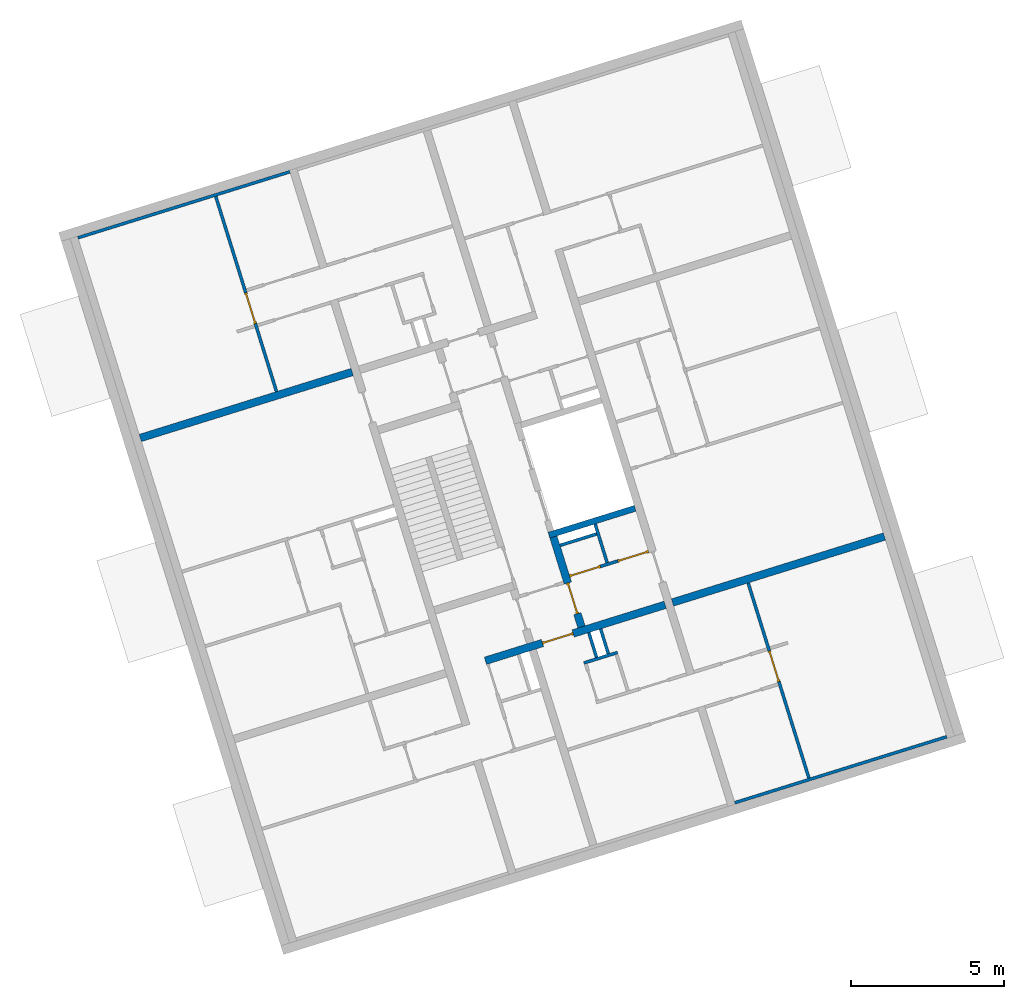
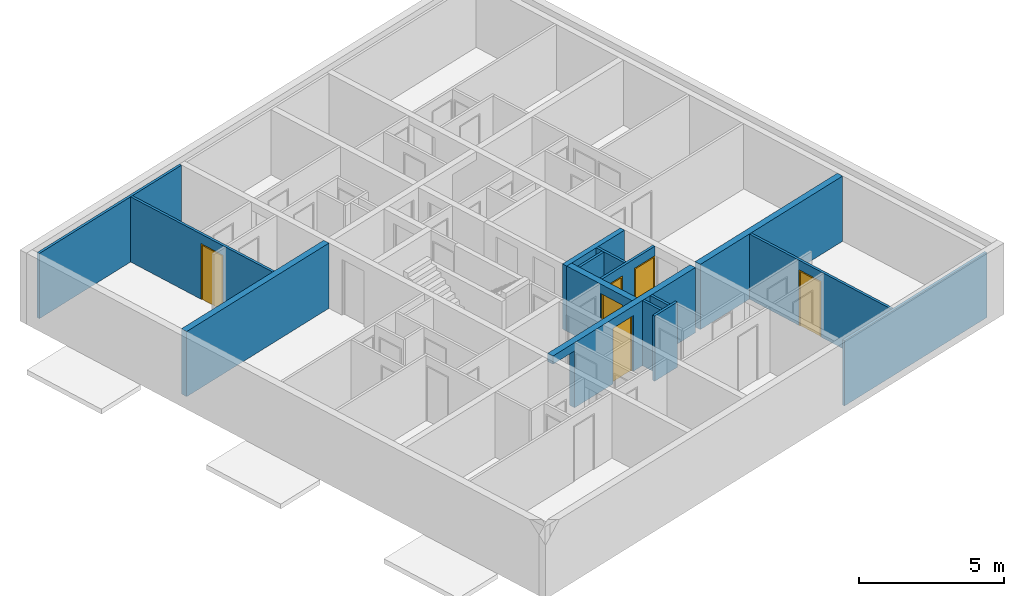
# One storey, part 4 of 9: 15 walls, 6 doors, 7 openings.
"""IFC4 building model written with IfcOpenShell, lengths in metres."""

import ifcopenshell
import ifcopenshell.guid

model = None  # the IFC model being written
_history = None  # IfcOwnerHistory: only IFC2X3 demands one
_inside = {}  # id of a spatial element -> (the spatial element, [elements in it])
_under = {}  # id of a project, library or spatial element -> (it, [spatial elements below it])
_declared = {}  # id of a project -> (the project, [libraries it declares])
_typed = {}  # id of a type object -> (the type object, [elements of that type])
_made_of = {}  # id of a material, layer set ... -> (it, [elements and type objects made of it])


def new_model(schema):
    """Start an empty IFC model of exactly this schema.

    Asked for "IFC4X3", IfcOpenShell would pick the latest addendum, in which some entities
    have other attributes; the version numbers below select the first issue.
    IFC2X3 requires an IfcOwnerHistory on every rooted entity: one is made here for all.
    """
    global model, _history
    if schema == "IFC4X3":
        model = ifcopenshell.file(schema_version=(4, 3, 0, 0))
    else:
        model = ifcopenshell.file(schema=schema)
    _inside.clear()
    _under.clear()
    _declared.clear()
    _typed.clear()
    _made_of.clear()
    _history = None
    if model.schema == "IFC2X3":
        org = make("IfcOrganization", Name="unknown")
        user = make(
            "IfcPersonAndOrganization",
            ThePerson=make("IfcPerson", FamilyName="unknown"),
            TheOrganization=org,
        )
        app = make(
            "IfcApplication",
            ApplicationDeveloper=org,
            Version="unknown",
            ApplicationFullName="unknown",
            ApplicationIdentifier="unknown",
        )
        _history = make(
            "IfcOwnerHistory",
            OwningUser=user,
            OwningApplication=app,
            ChangeAction="ADDED",
            CreationDate=0,
        )
    return model


def make(cls, **values):
    """One entity of the class cls with the attributes given. An attribute that is None is left unset."""
    return model.create_entity(
        cls, **{name: value for name, value in values.items() if value is not None}
    )


def entity(cls, *values):
    """Any entity or typed value of the class cls, its attributes in the order of the schema. None: left unset."""
    e = model.create_entity(cls)
    for i, value in enumerate(values):
        if value is not None:
            e[i] = value
    return e


def rooted(cls, **values):
    """An entity with a GlobalId (a new one), such as an element, a storey or a relation."""
    return make(cls, GlobalId=ifcopenshell.guid.new(), OwnerHistory=_history, **values)


def si_unit(unit_type, name, prefix=None):
    """IfcSIUnit, for example si_unit("LENGTHUNIT", "METRE", prefix="MILLI")."""
    return make("IfcSIUnit", UnitType=unit_type, Prefix=prefix, Name=name)


def converted_unit(unit_type, name, factor, base, dimensions=None, offset=None):
    """IfcConversionBasedUnit, such as the inch: factor (a typed value) times the base unit."""
    return make(
        "IfcConversionBasedUnit"
        if offset is None
        else "IfcConversionBasedUnitWithOffset",
        ConversionOffset=offset,
        Dimensions=None
        if dimensions is None
        else entity("IfcDimensionalExponents", *dimensions),
        UnitType=unit_type,
        Name=name,
        ConversionFactor=make(
            "IfcMeasureWithUnit", ValueComponent=factor, UnitComponent=base
        ),
    )


def assignment(units):
    """IfcUnitAssignment: the units of a project."""
    return None if units is None else make("IfcUnitAssignment", Units=units)


def point(xyz):
    """IfcCartesianPoint."""
    return None if xyz is None else make("IfcCartesianPoint", Coordinates=xyz)


def direction(xyz):
    """IfcDirection."""
    return None if xyz is None else make("IfcDirection", DirectionRatios=xyz)


def frame(location, z_axis=None, x_axis=None):
    """IfcAxis2Placement3D, a coordinate frame: its origin and axes. An axis left out is left unset."""
    return make(
        "IfcAxis2Placement3D",
        Location=point(location),
        Axis=direction(z_axis),
        RefDirection=direction(x_axis),
    )


def origin():
    """The frame at (0, 0, 0) with its axes left unset."""
    return frame((0.0, 0.0, 0.0))


def place(relative_to, where):
    """IfcLocalPlacement: puts the frame where relative to a parent placement (None: the world)."""
    return make(
        "IfcLocalPlacement", PlacementRelTo=relative_to, RelativePlacement=where
    )


def context(
    kind, dimensions, precision=None, world=None, true_north=None, identifier=None
):
    """IfcGeometricRepresentationContext, for example the 3D "Model" context."""
    return make(
        "IfcGeometricRepresentationContext",
        ContextIdentifier=identifier,
        ContextType=kind,
        CoordinateSpaceDimension=dimensions,
        Precision=precision,
        WorldCoordinateSystem=world,
        TrueNorth=true_north,
    )


def subcontext(parent, identifier, kind, view, scale=None):
    """IfcGeometricRepresentationSubContext, for example "Body" below "Model"."""
    return make(
        "IfcGeometricRepresentationSubContext",
        ContextIdentifier=identifier,
        ContextType=kind,
        ParentContext=parent,
        TargetScale=scale,
        TargetView=view,
    )


def project(units=None, contexts=None):
    """IfcProject with its units and contexts."""
    return rooted(
        "IfcProject",
        Name="project",
        RepresentationContexts=contexts,
        UnitsInContext=assignment(units),
    )


def spatial(cls, under=None, at=None, **own):
    """A site, building, storey or space (cls), placed at a placement, below another one or the project."""
    s = rooted(cls, ObjectPlacement=at, **own)
    if under is not None:
        _under.setdefault(under.id(), (under, []))[1].append(s)
    return s


def point_list(points):
    """IfcCartesianPointList2D or 3D."""
    cls = (
        "IfcCartesianPointList2D" if len(points[0]) == 2 else "IfcCartesianPointList3D"
    )
    return make(cls, CoordList=points)


def indexed_curve(points, segments=None, self_intersect=None):
    """IfcIndexedPolyCurve: lines and arcs through numbered points (the first is 1)."""
    return make(
        "IfcIndexedPolyCurve",
        Points=point_list(points),
        Segments=segments,
        SelfIntersect=self_intersect,
    )


def outline(outer, holes=None, kind="AREA"):
    """IfcArbitraryClosedProfileDef: a profile drawn as a closed curve; with holes, ...WithVoids."""
    if holes is None:
        return make("IfcArbitraryClosedProfileDef", ProfileType=kind, OuterCurve=outer)
    return make(
        "IfcArbitraryProfileDefWithVoids",
        ProfileType=kind,
        OuterCurve=outer,
        InnerCurves=holes,
    )


def extrude(swept, where, along, depth):
    """IfcExtrudedAreaSolid: the profile swept, set in the frame where, extruded along a direction by depth."""
    return make(
        "IfcExtrudedAreaSolid",
        SweptArea=swept,
        Position=where,
        ExtrudedDirection=direction(along),
        Depth=depth,
    )


def polygons(points, faces, closed=None, point_numbers=None):
    """IfcPolygonalFaceSet: a face is its outer loop, then its inner loops; points numbered from 1."""
    made = []
    for loops in faces:
        if len(loops) == 1:
            made.append(make("IfcIndexedPolygonalFace", CoordIndex=loops[0]))
        else:
            made.append(
                make(
                    "IfcIndexedPolygonalFaceWithVoids",
                    CoordIndex=loops[0],
                    InnerCoordIndices=loops[1:],
                )
            )
    return make(
        "IfcPolygonalFaceSet",
        Coordinates=point_list(points),
        Closed=closed,
        Faces=made,
        PnIndex=point_numbers,
    )


def shape(context_of_items, identifier, shape_type, items):
    """IfcShapeRepresentation: the items that make up one representation, for example the "Body"."""
    return make(
        "IfcShapeRepresentation",
        ContextOfItems=context_of_items,
        RepresentationIdentifier=identifier,
        RepresentationType=shape_type,
        Items=items,
    )


def source(mapping_origin, context_of_items, identifier, shape_type, items):
    """IfcRepresentationMap: a shape defined once, which mapped items show again and again."""
    return make(
        "IfcRepresentationMap",
        MappingOrigin=mapping_origin,
        MappedRepresentation=shape(context_of_items, identifier, shape_type, items),
    )


def transform(
    local_origin,
    x_axis=None,
    y_axis=None,
    z_axis=None,
    scale=None,
    scale2=None,
    scale3=None,
    uniform=True,
):
    """IfcCartesianTransformationOperator3D, or its non-uniform kind. x_axis, y_axis, z_axis: its Axis1, 2, 3."""
    if uniform:
        return make(
            "IfcCartesianTransformationOperator3D",
            Axis1=direction(x_axis),
            Axis2=direction(y_axis),
            LocalOrigin=point(local_origin),
            Scale=scale,
            Axis3=direction(z_axis),
        )
    return make(
        "IfcCartesianTransformationOperator3DnonUniform",
        Axis1=direction(x_axis),
        Axis2=direction(y_axis),
        LocalOrigin=point(local_origin),
        Scale=scale,
        Axis3=direction(z_axis),
        Scale2=scale2,
        Scale3=scale3,
    )


def mapped(mapping_source, mapping_target):
    """IfcMappedItem: shows the shape of a source again, moved by a transform."""
    return make(
        "IfcMappedItem", MappingSource=mapping_source, MappingTarget=mapping_target
    )


def material(Name=None, Category=None):
    """IfcMaterial."""
    return make("IfcMaterial", Name=Name, Category=Category)


def constituent(of_material, Name=None, Category=None, fraction=None):
    """IfcMaterialConstituent: one of the materials an element consists of."""
    return make(
        "IfcMaterialConstituent",
        Name=Name,
        Material=of_material,
        Fraction=fraction,
        Category=Category,
    )


def constituent_set(constituents=None, Name=None):
    """IfcMaterialConstituentSet."""
    return make(
        "IfcMaterialConstituentSet", Name=Name, MaterialConstituents=constituents
    )


def made_of(thing, what):
    """Note that an element or type object is made of a material, layer set ...; save() writes the relation."""
    if what is not None:
        _made_of.setdefault(what.id(), (what, []))[1].append(thing)
    return thing


def type_object(cls, material=None, **own):
    """A type object (cls), such as IfcWallType, which elements share."""
    return made_of(rooted(cls, **own), material)


def type_shapes(of_type, sources):
    """Give a type object the sources (RepresentationMaps) that its elements show as mapped items."""
    of_type.RepresentationMaps = sources


def element(
    cls,
    number,
    at=None,
    inside=None,
    cuts=None,
    type_object=None,
    material=None,
    context=None,
    identifier="Body",
    shape_type=None,
    held_by="IfcProductDefinitionShape",
    body=None,
    shapes=None,
    **own,
):
    """One element of the class cls, such as IfcWall. Its Tag is "e" and its number.

    at: its placement. inside: the storey or other place that contains it. cuts: it is an
    opening in that element (IfcRelVoidsElement). A single representation is given by context,
    identifier, shape_type and body (its items); several are given by shapes. held_by: the class
    of the entity that holds the representations. save() writes the other relations.
    """
    e = rooted(cls, Tag="e%d" % number, ObjectPlacement=at, **own)
    if body is not None:
        shapes = [shape(context, identifier, shape_type, body)]
    if shapes is not None:
        e.Representation = make(held_by, Representations=shapes)
    if inside is not None:
        _inside.setdefault(inside.id(), (inside, []))[1].append(e)
    if cuts is not None:
        rooted(
            "IfcRelVoidsElement", RelatingBuildingElement=cuts, RelatedOpeningElement=e
        )
    if type_object is not None:
        _typed.setdefault(type_object.id(), (type_object, []))[1].append(e)
    return made_of(e, material)


def fill(opening, filler):
    """IfcRelFillsElement: the door or window that sits in an opening."""
    return rooted(
        "IfcRelFillsElement",
        RelatingOpeningElement=opening,
        RelatedBuildingElement=filler,
    )


def aggregate(whole, parts):
    """IfcRelAggregates: a whole, such as a stair, and the parts it consists of."""
    return rooted("IfcRelAggregates", RelatingObject=whole, RelatedObjects=parts)


def save(model, path):
    """Write the relations noted so far, then the file.

    IfcRelAggregates (storeys below a building ...), IfcRelContainedInSpatialStructure (elements
    in a storey), IfcRelDefinesByType, IfcRelAssociatesMaterial and IfcRelDeclares: one each for
    every whole, place, type object, material and project.
    """
    for whole, parts in _under.values():
        aggregate(whole, parts)
    for where, things in _inside.values():
        rooted(
            "IfcRelContainedInSpatialStructure",
            RelatedElements=things,
            RelatingStructure=where,
        )
    for kind, things in _typed.values():
        rooted("IfcRelDefinesByType", RelatedObjects=things, RelatingType=kind)
    for what, things in _made_of.values():
        rooted("IfcRelAssociatesMaterial", RelatedObjects=things, RelatingMaterial=what)
    for by, libraries in _declared.values():
        rooted("IfcRelDeclares", RelatingContext=by, RelatedDefinitions=libraries)
    model.write(path)


model = new_model("IFC4")

# Units and contexts
model_context = context("Model", 3, precision=1e-05, world=origin(), true_north=direction((6.12323399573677e-17, 1.0)))
body_context = subcontext(model_context, "Body", "Model", "MODEL_VIEW")
ifc_project = project(units=[si_unit("LENGTHUNIT", "METRE"), si_unit("AREAUNIT", "SQUARE_METRE"), converted_unit("PLANEANGLEUNIT", "DEGREE", entity("IfcPlaneAngleMeasure", 0.0174532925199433), si_unit("PLANEANGLEUNIT", "RADIAN"), dimensions=[0, 0, 0, 0, 0, 0, 0]), si_unit("VOLUMEUNIT", "CUBIC_METRE")], contexts=[model_context])

# Site, building, storey
site_placement = place(None, frame((13.1347999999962, 11.9886000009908, 0.0), z_axis=(0.0, 0.0, 1.0), x_axis=(0.954770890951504, 0.297342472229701, 0.0)))
site = spatial("IfcSite", under=ifc_project, at=site_placement, Name="Schiehaven", CompositionType="ELEMENT")
building_placement = place(site_placement, origin())
building = spatial("IfcBuilding", under=site, at=building_placement, Name="VORM huis", CompositionType="ELEMENT")
storey_placement = place(building_placement, frame((0.0, 0.0, 18.9)))
storey = spatial("IfcBuildingStorey", under=building, at=storey_placement, Name="06 zesde verdieping", CompositionType="ELEMENT", Elevation=18.9)

# Wall, openings, door
ifc_material_1 = material(Name="beton_gewapend_ihw", Category="Miscellaneous")
wall_type_1 = type_object("IfcWallType", Name="Basic Wall:28_WA_skelet_wand 250mm_gen", PredefinedType="STANDARD")
wall_1_placement = place(storey_placement, frame((65.125, 11.8999999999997, 0.0)))
wall_1 = element("IfcWall", 1, at=wall_1_placement, inside=storey, type_object=wall_type_1, material=ifc_material_1, Name="Constructieve wand", ObjectType="Wand", PredefinedType="NOTDEFINED", context=body_context, shape_type="Tessellation", body=[
    polygons([(4.09999999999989, -0.125, 2.34999999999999), (4.09999999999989, -0.125, 0.0), (7.24999999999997, -0.125, 0.0), (7.24999999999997, -0.125, 2.75), (-3.43598028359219e-15, -0.125, 2.75), (-3.43598028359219e-15, -0.125, 2.4), (1.10000000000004, -0.125, 2.4), (1.10000000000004, -0.125, 0.0), (3.04999999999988, -0.125, 0.0), (3.04999999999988, -0.125, 2.34999999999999), (7.24999999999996, 0.125, 0.0), (4.09999999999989, 0.125, 0.0), (4.09999999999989, 0.125, 2.34999999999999), (3.04999999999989, 0.125, 2.34999999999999), (3.04999999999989, 0.125, 0.0), (1.10000000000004, 0.125, 0.0), (1.10000000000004, 0.125, 2.4), (-9.33960364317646e-16, 0.125, 2.4), (-9.33960364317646e-16, 0.125, 2.75), (7.24999999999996, 0.125, 2.75)], [[[1, 2, 3, 4, 5, 6, 7, 8, 9, 10]], [[11, 12, 13, 14, 15, 16, 17, 18, 19, 20]], [[9, 8, 16, 15]], [[5, 4, 20, 19]], [[5, 19, 18, 6]], [[15, 14, 10, 9]], [[13, 12, 2, 1]], [[14, 13, 1, 10]], [[17, 7, 6, 18]], [[7, 17, 16, 8]], [[4, 3, 11, 20]], [[3, 2, 12, 11]]], closed=True),
])
opening_1_placement = place(wall_1_placement, origin())
element("IfcOpeningElement", 2, at=opening_1_placement, cuts=wall_1, Name="Constructieve wand", PredefinedType="OPENING", context=body_context, shape_type="SweptSolid", body=[
    extrude(outline(indexed_curve([(-1.2, -0.550000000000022), (1.2, -0.550000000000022), (1.2, 0.550000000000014), (-1.2, 0.550000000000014), (-1.2, -0.550000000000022)], self_intersect=False)), frame((0.55000000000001, -0.125, 1.2), z_axis=(0.0, 1.0, 0.0), x_axis=(0.0, 0.0, -1.0)), (0.0, 0.0, 1.0), 0.249999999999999),
])
opening_2_placement = place(wall_1_placement, frame((3.04999999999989, -0.124999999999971, 0.0)))
opening_2 = element("IfcOpeningElement", 3, at=opening_2_placement, cuts=wall_1, Name="Woningtoegangsdeur", PredefinedType="OPENING", context=body_context, shape_type="SweptSolid", body=[
    extrude(outline(indexed_curve([(2.34999999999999, 1.8457481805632e-29), (2.34999999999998, 1.05), (0.0, 1.05), (2.16573425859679e-15, 1.8457481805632e-29), (2.34999999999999, 1.8457481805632e-29)], self_intersect=False)), frame((0.0, 0.0, 0.0), z_axis=(0.0, 1.0, 0.0), x_axis=(0.0, 0.0, 1.0)), (0.0, 0.0, 1.0), 0.25),
])
ifc_material_2 = material(Name="PD_a_binnenwandopeningen", Category="Miscellaneous")
ifc_constituent_1 = constituent(ifc_material_2, Name="PD_a_binnenwandopeningen", Category="Miscellaneous")
ifc_material_3 = material(Name="metaal_aluminium_ntb", Category="Miscellaneous")
ifc_constituent_2 = constituent(ifc_material_3, Name="metaal_aluminium_ntb", Category="Miscellaneous")
ifc_constituent_set_1 = constituent_set(constituents=[ifc_constituent_1, ifc_constituent_2])
ifc_constituent_3 = constituent(ifc_material_2, Name="PD_a_binnenwandopeningen", Category="Miscellaneous")
ifc_constituent_4 = constituent(ifc_material_3, Name="Panel", Category="Miscellaneous")
ifc_constituent_set_2 = constituent_set(constituents=[ifc_constituent_3, ifc_constituent_4])
door_type_1 = type_object("IfcDoorType", Name="32_DO_binnendeur enkel:woningtoegangsdeur", OperationType="REVOLVING", PredefinedType="DOOR", material=ifc_constituent_set_2)
shared_shape_1 = source(origin(), body_context, "Body", "SweptSolid", [
    extrude(outline(indexed_curve([(0.475, -1.16249999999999), (0.525000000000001, -1.16249999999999), (0.525000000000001, 1.18749999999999), (-0.525000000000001, 1.18749999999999), (-0.525000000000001, -1.16249999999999), (-0.475, -1.16249999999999), (-0.475, 1.13749999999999), (0.475, 1.13749999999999), (0.475, -1.16249999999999)], self_intersect=False)), frame((0.525000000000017, 0.174999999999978, 1.16249999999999), z_axis=(0.0, -1.0, 0.0), x_axis=(1.0, 0.0, 0.0)), (0.0, 0.0, 1.0), 0.1),
    extrude(outline(indexed_curve([(-0.475, -0.025), (0.475, -0.025), (0.475, 0.025), (-0.475, 0.025), (-0.475, -0.025)], self_intersect=False)), frame((0.525000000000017, 0.12499999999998, 0.0)), (0.0, 0.0, 1.0), 2.29999999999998),
])
type_shapes(door_type_1, [shared_shape_1])
door_1_placement = place(opening_2_placement, origin())
door_1 = element("IfcDoor", 4, at=door_1_placement, inside=storey, type_object=door_type_1, material=ifc_constituent_set_1, Name="Woningtoegangsdeur", ObjectType="Deur", OperationType="REVOLVING", OverallHeight=2.34999999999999, OverallWidth=1.05, PredefinedType="DOOR", context=body_context, shape_type="MappedRepresentation", body=[
    mapped(shared_shape_1, transform((0.0, 0.0, 0.0), scale=1.0)),
])
fill(opening_2, door_1)

# Walls
ifc_material_4 = material(Name="ntb_ntb_ntb", Category="Miscellaneous")
wall_type_2 = type_object("IfcWallType", Name="Basic Wall:21_WA_gevel_binnenspouwwand 100mm_gen", PredefinedType="STANDARD")
wall_2_placement = place(storey_placement, frame((79.8750000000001, 5.04999999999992, 0.0), z_axis=(0.0, 0.0, 1.0), x_axis=(-1.0, 0.0, 0.0)))
element("IfcWall", 5, at=wall_2_placement, inside=storey, type_object=wall_type_2, material=ifc_material_4, Name="Binnenspouwblad", ObjectType="Wand", PredefinedType="NOTDEFINED", context=body_context, shape_type="SweptSolid", body=[
    extrude(outline(indexed_curve([(7.24999999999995, 0.0499999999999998), (5.48749790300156e-18, 0.0499999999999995), (-5.48749790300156e-18, -0.0499999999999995), (7.24999999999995, -0.0499999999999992), (7.24999999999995, 0.0499999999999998)], self_intersect=False)), origin(), (0.0, 0.0, 1.0), 2.75),
])
wall_3_placement = place(storey_placement, frame((64.8750000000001, 29.0499999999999, 0.0), z_axis=(0.0, 0.0, 1.0), x_axis=(-1.0, 0.0, 0.0)))
element("IfcWall", 6, at=wall_3_placement, inside=storey, type_object=wall_type_2, material=ifc_material_4, Name="Binnenspouwblad", ObjectType="Wand", PredefinedType="NOTDEFINED", context=body_context, shape_type="SweptSolid", body=[
    extrude(outline(indexed_curve([(7.24999999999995, 0.0499999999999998), (-1.70916305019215e-17, 0.0500000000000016), (1.70916305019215e-17, -0.0500000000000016), (7.24999999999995, -0.0500000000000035), (7.24999999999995, 0.0499999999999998)], self_intersect=False)), origin(), (0.0, 0.0, 1.0), 2.75),
])
ifc_material_5 = material(Name="beton_gewapend_prefab-element", Category="Miscellaneous")
wall_type_3 = type_object("IfcWallType", Name="Basic Wall:28_WA_skelet_wand 200mm_gen", PredefinedType="STANDARD")
wall_4_placement = place(storey_placement, frame((72.3750000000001, 15.1999999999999, 0.0), z_axis=(0.0, 0.0, 1.0), x_axis=(-1.0, 0.0, 0.0)))
element("IfcWall", 7, at=wall_4_placement, inside=storey, type_object=wall_type_3, material=ifc_material_5, Name="Constructieve wand", ObjectType="Wand", PredefinedType="NOTDEFINED", context=body_context, shape_type="SweptSolid", body=[
    extrude(outline(indexed_curve([(2.9500000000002, 0.100000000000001), (-7.31549408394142e-18, 0.100000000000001), (7.31549408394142e-18, -0.100000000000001), (2.9500000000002, -0.100000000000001), (2.9500000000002, 0.100000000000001)], self_intersect=False)), origin(), (0.0, 0.0, 1.0), 2.75),
])
wall_type_4 = type_object("IfcWallType", Name="Basic Wall:22_WA_afbouw_binnenwand 250mm_gen", PredefinedType="STANDARD")
wall_5_placement = place(storey_placement, frame((64.8749999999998, 22.1999999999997, 0.0), z_axis=(0.0, 0.0, 1.0), x_axis=(-1.0, 0.0, 0.0)))
element("IfcWall", 8, at=wall_5_placement, inside=storey, type_object=wall_type_4, material=ifc_material_4, Name="Binnenwand", ObjectType="Wand", PredefinedType="NOTDEFINED", context=body_context, shape_type="SweptSolid", body=[
    extrude(outline(indexed_curve([(7.24999999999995, 0.125000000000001), (1.36042581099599e-15, 0.125000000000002), (-1.36042581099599e-15, -0.125000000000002), (7.24999999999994, -0.125000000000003), (7.24999999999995, 0.125000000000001)], self_intersect=False)), origin(), (0.0, 0.0, 1.0), 2.75),
])
wall_6_placement = place(storey_placement, frame((72.6249999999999, 11.8999999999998, 0.0)))
element("IfcWall", 9, at=wall_6_placement, inside=storey, type_object=wall_type_4, material=ifc_material_4, Name="Binnenwand", ObjectType="Wand", PredefinedType="NOTDEFINED", context=body_context, shape_type="SweptSolid", body=[
    extrude(outline(indexed_curve([(7.24999999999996, 0.124999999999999), (1.36514404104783e-15, 0.125), (-1.36514404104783e-15, -0.125), (7.24999999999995, -0.125000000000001), (7.24999999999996, 0.124999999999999)], self_intersect=False)), origin(), (0.0, 0.0, 1.0), 2.75),
])

# Wall, opening, door
wall_7_placement = place(storey_placement, frame((69.5499999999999, 15.0999999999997, 0.0), z_axis=(0.0, 0.0, 1.0), x_axis=(0.0, -1.0, 0.0)))
wall_7 = element("IfcWall", 10, at=wall_7_placement, inside=storey, type_object=wall_type_4, material=ifc_material_4, Name="Binnenwand", ObjectType="Wand", PredefinedType="NOTDEFINED", context=body_context, shape_type="Tessellation", body=[
    polygons([(2.62500000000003, -0.125000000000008, 2.34999999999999), (2.62500000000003, -0.125000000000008, 0.0), (3.07499999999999, -0.125000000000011, 0.0), (3.07499999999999, -0.125000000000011, 2.75), (1.575, -0.125000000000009, 2.75), (1.475, -0.125000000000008, 2.75), (0.0, -0.125000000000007, 2.75), (0.0, -0.125000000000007, 0.0), (1.475, -0.125000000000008, 0.0), (1.57500000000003, -0.125000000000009, 0.0), (1.57500000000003, -0.125000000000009, 2.34999999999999), (3.07499999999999, 0.124999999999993, 0.0), (2.62500000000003, 0.124999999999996, 0.0), (2.62500000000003, 0.124999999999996, 2.34999999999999), (1.57500000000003, 0.124999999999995, 2.34999999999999), (1.57500000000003, 0.124999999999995, 0.0), (-2.16573425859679e-15, 0.125000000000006, 0.0), (-2.16573425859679e-15, 0.125000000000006, 2.75), (3.07499999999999, 0.124999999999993, 2.75)], [[[1, 2, 3, 4, 5, 6, 7, 8, 9, 10, 11]], [[12, 13, 14, 15, 16, 17, 18, 19]], [[10, 9, 8, 17, 16]], [[4, 3, 12, 19]], [[7, 6, 5, 4, 19, 18]], [[8, 7, 18, 17]], [[16, 15, 11, 10]], [[14, 13, 2, 1]], [[15, 14, 1, 11]], [[3, 2, 13, 12]]], closed=True),
])
opening_3_placement = place(wall_7_placement, frame((2.62500000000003, 0.125000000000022, 0.0)))
opening_3 = element("IfcOpeningElement", 11, at=opening_3_placement, cuts=wall_7, Name="Woningtoegangsdeur", PredefinedType="OPENING", context=body_context, shape_type="SweptSolid", body=[
    extrude(outline(indexed_curve([(2.34999999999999, 1.05), (0.0, 1.05), (0.0, 1.08286712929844e-15), (2.34999999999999, 1.08286712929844e-15), (2.34999999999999, 1.05)], self_intersect=False)), frame((0.0, 0.0, 0.0), z_axis=(0.0, -1.0, 0.0), x_axis=(0.0, 0.0, 1.0)), (0.0, 0.0, 1.0), 0.25),
])
ifc_constituent_5 = constituent(ifc_material_2, Name="PD_a_binnenwandopeningen", Category="Miscellaneous")
ifc_constituent_6 = constituent(ifc_material_3, Name="metaal_aluminium_ntb", Category="Miscellaneous")
ifc_constituent_set_3 = constituent_set(constituents=[ifc_constituent_5, ifc_constituent_6])
ifc_constituent_7 = constituent(ifc_material_2, Name="PD_a_binnenwandopeningen", Category="Miscellaneous")
ifc_constituent_8 = constituent(ifc_material_3, Name="Panel", Category="Miscellaneous")
ifc_constituent_set_4 = constituent_set(constituents=[ifc_constituent_7, ifc_constituent_8])
door_type_2 = type_object("IfcDoorType", Name="32_DO_binnendeur enkel:woningtoegangsdeur", OperationType="REVOLVING", PredefinedType="DOOR", material=ifc_constituent_set_4)
shared_shape_2 = source(origin(), body_context, "Body", "SweptSolid", [
    extrude(outline(indexed_curve([(-1.16249999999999, -0.525000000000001), (1.18749999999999, -0.525), (1.18749999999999, 0.525000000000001), (-1.16249999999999, 0.525000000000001), (-1.16249999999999, 0.475), (1.13749999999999, 0.475), (1.13749999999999, -0.475), (-1.16249999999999, -0.475), (-1.16249999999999, -0.525000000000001)], self_intersect=False)), frame((0.525000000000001, 0.0749999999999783, 1.16249999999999), z_axis=(0.0, 1.0, 0.0), x_axis=(0.0, 0.0, 1.0)), (0.0, 0.0, 1.0), 0.1),
    extrude(outline(indexed_curve([(-0.025, -0.475), (0.025, -0.475), (0.025, 0.475), (-0.025, 0.475), (-0.025, -0.475)], self_intersect=False)), frame((0.525000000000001, 0.12499999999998, 0.0), z_axis=(0.0, 0.0, 1.0), x_axis=(0.0, 1.0, 0.0)), (0.0, 0.0, 1.0), 2.29999999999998),
])
type_shapes(door_type_2, [shared_shape_2])
door_2_placement = place(opening_3_placement, frame((0.0, 0.0, 0.0), z_axis=(0.0, 0.0, 1.0), x_axis=(-1.0, 0.0, 0.0)))
door_2 = element("IfcDoor", 12, at=door_2_placement, inside=storey, type_object=door_type_2, material=ifc_constituent_set_3, Name="Woningtoegangsdeur", ObjectType="Deur", OperationType="REVOLVING", OverallHeight=2.34999999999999, OverallWidth=1.05, PredefinedType="DOOR", context=body_context, shape_type="MappedRepresentation", body=[
    mapped(shared_shape_2, transform((0.0, 0.0, 0.0), scale=1.0)),
])
fill(opening_3, door_2)

# Walls
wall_type_5 = type_object("IfcWallType", Name="Basic Wall:22_WA_afbouw_binnenwand 100mm_gen", PredefinedType="STANDARD")
wall_8_placement = place(storey_placement, frame((70.4249999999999, 10.8749999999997, 0.0), z_axis=(0.0, 0.0, 1.0), x_axis=(-1.0, 0.0, 0.0)))
element("IfcWall", 13, at=wall_8_placement, inside=storey, type_object=wall_type_5, material=ifc_material_4, Name="Binnenwand", ObjectType="Wand", PredefinedType="NOTDEFINED", context=body_context, shape_type="SweptSolid", body=[
    extrude(outline(indexed_curve([(1.15, 0.049999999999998), (6.26749477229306e-16, 0.0499999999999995), (-6.26749477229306e-16, -0.0499999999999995), (1.15, -0.0500000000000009), (1.15, 0.049999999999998)], self_intersect=False)), origin(), (0.0, 0.0, 1.0), 2.75),
])
wall_9_placement = place(storey_placement, frame((69.7249999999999, 11.7749999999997, 0.0), z_axis=(0.0, 0.0, 1.0), x_axis=(0.0, -1.0, 0.0)))
element("IfcWall", 14, at=wall_9_placement, inside=storey, type_object=wall_type_5, material=ifc_material_4, Name="Binnenwand", ObjectType="Wand", PredefinedType="NOTDEFINED", context=body_context, shape_type="SweptSolid", body=[
    extrude(outline(indexed_curve([(0.850000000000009, 0.0499999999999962), (5.75634952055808e-16, 0.0499999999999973), (-5.75634952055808e-16, -0.0499999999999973), (0.850000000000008, -0.0499999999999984), (0.850000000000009, 0.0499999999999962)], self_intersect=False)), origin(), (0.0, 0.0, 1.0), 2.75),
])

# Wall, opening, door
wall_10_placement = place(storey_placement, frame((75.175, 11.7749999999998, 0.0), z_axis=(0.0, 0.0, 1.0), x_axis=(0.0, -1.0, 0.0)))
wall_10 = element("IfcWall", 15, at=wall_10_placement, inside=storey, type_object=wall_type_5, material=ifc_material_4, Name="Binnenwand", ObjectType="Wand", PredefinedType="NOTDEFINED", context=body_context, shape_type="Tessellation", body=[
    polygons([(0.0, -0.050000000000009, 2.16573425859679e-15), (2.19999999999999, -0.0500000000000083, 2.16573425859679e-15), (2.29999999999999, -0.0500000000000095, 2.16573425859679e-15), (2.325, -0.0500000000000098, 2.16573425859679e-15), (2.325, -0.0500000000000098, 2.34999999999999), (3.375, -0.0500000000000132, 2.34999999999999), (3.375, -0.0500000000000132, 2.16573425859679e-15), (3.39999999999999, -0.0500000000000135, 2.16573425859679e-15), (3.49999999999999, -0.050000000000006, 2.16573425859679e-15), (6.67499999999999, -0.0500000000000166, 2.16573425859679e-15), (6.67499999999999, -0.0500000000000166, 2.75), (3.49999999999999, -0.050000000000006, 2.75), (3.39999999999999, -0.0500000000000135, 2.75), (2.29999999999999, -0.0500000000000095, 2.75), (2.19999999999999, -0.0500000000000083, 2.75), (0.0, -0.050000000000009, 2.75), (2.325, 0.0499999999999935, 2.34999999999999), (2.325, 0.0499999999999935, 2.16573425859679e-15), (2.29999999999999, 0.0499999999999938, 2.16573425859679e-15), (2.19999999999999, 0.0499999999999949, 2.16573425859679e-15), (0.0, 0.0499999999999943, 2.16573425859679e-15), (0.0, 0.0499999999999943, 2.75), (2.19999999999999, 0.0499999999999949, 2.75), (2.29999999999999, 0.0499999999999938, 2.75), (6.67499999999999, 0.0499999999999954, 2.75), (6.67499999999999, 0.0499999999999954, 2.16573425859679e-15), (3.375, 0.04999999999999, 2.16573425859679e-15), (3.375, 0.04999999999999, 2.34999999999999)], [[[1, 2, 3, 4, 5, 6, 7, 8, 9, 10, 11, 12, 13, 14, 15, 16]], [[17, 18, 19, 20, 21, 22, 23, 24, 25, 26, 27, 28]], [[21, 20, 19, 18, 4, 3, 2, 1]], [[11, 10, 26, 25]], [[16, 15, 14, 13, 12, 11, 25, 24, 23, 22]], [[1, 16, 22, 21]], [[7, 6, 28, 27]], [[5, 4, 18, 17]], [[6, 5, 17, 28]], [[27, 26, 10, 9, 8, 7]]], closed=True),
])
opening_4_placement = place(wall_10_placement, frame((3.375, 0.0500000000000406, 0.0)))
opening_4 = element("IfcOpeningElement", 16, at=opening_4_placement, cuts=wall_10, Name="Binnendeur", PredefinedType="OPENING", context=body_context, shape_type="SweptSolid", body=[
    extrude(outline(indexed_curve([(2.34999999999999, 0.0), (2.34999999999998, 1.05), (0.0, 1.05), (2.16573425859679e-15, 0.0), (2.34999999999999, 0.0)], self_intersect=False)), frame((0.0, 0.0, 0.0), z_axis=(0.0, -1.0, 0.0), x_axis=(0.0, 0.0, 1.0)), (0.0, 0.0, 1.0), 0.1),
])
ifc_constituent_9 = constituent(ifc_material_2, Name="PD_a_binnenwandopeningen", Category="Miscellaneous")
ifc_constituent_10 = constituent(ifc_material_3, Name="metaal_aluminium_ntb", Category="Miscellaneous")
ifc_constituent_set_5 = constituent_set(constituents=[ifc_constituent_9, ifc_constituent_10])
ifc_constituent_11 = constituent(ifc_material_2, Name="PD_a_binnenwandopeningen", Category="Miscellaneous")
ifc_constituent_12 = constituent(ifc_material_3, Name="Panel", Category="Miscellaneous")
ifc_constituent_set_6 = constituent_set(constituents=[ifc_constituent_11, ifc_constituent_12])
door_type_3 = type_object("IfcDoorType", Name="32_DO_binnendeur enkel:binnendeur", OperationType="REVOLVING", PredefinedType="DOOR", material=ifc_constituent_set_6)
shared_shape_3 = source(origin(), body_context, "Body", "SweptSolid", [
    extrude(outline(indexed_curve([(0.475, -1.16249999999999), (0.525, -1.16249999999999), (0.525, 1.18749999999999), (-0.525, 1.18749999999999), (-0.525, -1.16249999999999), (-0.475, -1.16249999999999), (-0.475, 1.13749999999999), (0.475, 1.13749999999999), (0.475, -1.16249999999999)], self_intersect=False)), frame((0.525000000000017, 0.100000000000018, 1.16249999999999), z_axis=(0.0, -1.0, 0.0), x_axis=(1.0, 0.0, 0.0)), (0.0, 0.0, 1.0), 0.1),
    extrude(outline(indexed_curve([(-0.475, -0.025), (0.475, -0.025), (0.475, 0.025), (-0.475, 0.025), (-0.475, -0.025)], self_intersect=False)), frame((0.525000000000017, 0.0499999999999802, 0.0)), (0.0, 0.0, 1.0), 2.29999999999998),
])
type_shapes(door_type_3, [shared_shape_3])
door_3_placement = place(opening_4_placement, frame((0.0, 0.0, 0.0), z_axis=(0.0, 0.0, 1.0), x_axis=(-1.0, 0.0, 0.0)))
door_3 = element("IfcDoor", 17, at=door_3_placement, inside=storey, type_object=door_type_3, material=ifc_constituent_set_5, Name="Binnendeur", ObjectType="Deur", OperationType="REVOLVING", OverallHeight=2.34999999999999, OverallWidth=1.05, PredefinedType="DOOR", context=body_context, shape_type="MappedRepresentation", body=[
    mapped(shared_shape_3, transform((0.0, 0.0, 0.0), scale=1.0)),
])
fill(opening_4, door_3)

# Wall
wall_11_placement = place(storey_placement, frame((70.1249999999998, 11.7749999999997, 0.0), z_axis=(0.0, 0.0, 1.0), x_axis=(0.0, -1.0, 0.0)))
element("IfcWall", 18, at=wall_11_placement, inside=storey, type_object=wall_type_5, material=ifc_material_4, Name="Binnenwand", ObjectType="Wand", PredefinedType="NOTDEFINED", context=body_context, shape_type="SweptSolid", body=[
    extrude(outline(indexed_curve([(0.850000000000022, 0.0499999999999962), (5.75634952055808e-16, 0.0499999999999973), (-5.75634952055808e-16, -0.0499999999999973), (0.850000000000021, -0.0499999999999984), (0.850000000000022, 0.0499999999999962)], self_intersect=False)), origin(), (0.0, 0.0, 1.0), 2.75),
])

# Wall, opening, door
wall_12_placement = place(storey_placement, frame((62.3249999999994, 22.3250000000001, 0.0), z_axis=(0.0, 0.0, 1.0), x_axis=(0.0, 1.0, 0.0)))
wall_12 = element("IfcWall", 19, at=wall_12_placement, inside=storey, type_object=wall_type_5, material=ifc_material_4, Name="Binnenwand", ObjectType="Wand", PredefinedType="NOTDEFINED", context=body_context, shape_type="Tessellation", body=[
    polygons([(0.0, -0.0500000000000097, 2.16573425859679e-15), (2.19999999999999, -0.0500000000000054, 2.16573425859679e-15), (2.29999999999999, -0.0500000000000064, 2.16573425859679e-15), (2.325, -0.0500000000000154, 2.16573425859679e-15), (2.325, -0.0500000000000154, 2.34999999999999), (3.37500000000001, -0.0500000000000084, 2.34999999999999), (3.37500000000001, -0.0500000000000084, 2.16573425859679e-15), (3.39999999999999, -0.0500000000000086, 2.16573425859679e-15), (3.49999999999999, -0.0500000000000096, 2.16573425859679e-15), (6.67499999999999, -0.0500000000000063, 2.16573425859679e-15), (6.67499999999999, -0.0500000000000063, 2.75), (3.49999999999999, -0.0500000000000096, 2.75), (3.39999999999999, -0.0500000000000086, 2.75), (2.29999999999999, -0.0500000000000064, 2.75), (2.19999999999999, -0.0500000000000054, 2.75), (0.0, -0.0500000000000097, 2.75), (2.325, 0.0499999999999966, 2.34999999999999), (2.325, 0.0499999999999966, 2.16573425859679e-15), (2.29999999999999, 0.0499999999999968, 2.16573425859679e-15), (2.19999999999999, 0.0499999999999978, 2.16573425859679e-15), (0.0, 0.0499999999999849, 2.16573425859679e-15), (0.0, 0.0499999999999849, 2.75), (2.19999999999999, 0.0499999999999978, 2.75), (2.29999999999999, 0.0499999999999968, 2.75), (6.67499999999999, 0.0499999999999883, 2.75), (6.67499999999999, 0.0499999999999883, 2.16573425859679e-15), (3.37500000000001, 0.0500000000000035, 2.16573425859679e-15), (3.37500000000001, 0.0500000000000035, 2.34999999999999)], [[[1, 2, 3, 4, 5, 6, 7, 8, 9, 10, 11, 12, 13, 14, 15, 16]], [[17, 18, 19, 20, 21, 22, 23, 24, 25, 26, 27, 28]], [[21, 20, 19, 18, 4, 3, 2, 1]], [[11, 10, 26, 25]], [[16, 15, 14, 13, 12, 11, 25, 24, 23, 22]], [[1, 16, 22, 21]], [[7, 6, 28, 27]], [[5, 4, 18, 17]], [[6, 5, 17, 28]], [[27, 26, 10, 9, 8, 7]]], closed=True),
])
opening_5_placement = place(wall_12_placement, frame((3.37500000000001, 0.0500000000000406, 0.0)))
opening_5 = element("IfcOpeningElement", 20, at=opening_5_placement, cuts=wall_12, Name="Binnendeur", PredefinedType="OPENING", context=body_context, shape_type="SweptSolid", body=[
    extrude(outline(indexed_curve([(2.34999999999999, 0.0), (2.34999999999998, 1.05), (0.0, 1.05), (2.16573425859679e-15, 0.0), (2.34999999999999, 0.0)], self_intersect=False)), frame((0.0, 0.0, 0.0), z_axis=(0.0, -1.0, 0.0), x_axis=(0.0, 0.0, 1.0)), (0.0, 0.0, 1.0), 0.1),
])
ifc_constituent_13 = constituent(ifc_material_2, Name="PD_a_binnenwandopeningen", Category="Miscellaneous")
ifc_constituent_14 = constituent(ifc_material_3, Name="metaal_aluminium_ntb", Category="Miscellaneous")
ifc_constituent_set_7 = constituent_set(constituents=[ifc_constituent_13, ifc_constituent_14])
door_4_placement = place(opening_5_placement, frame((0.0, 0.0, 0.0), z_axis=(0.0, 0.0, 1.0), x_axis=(-1.0, 0.0, 0.0)))
door_4 = element("IfcDoor", 21, at=door_4_placement, inside=storey, type_object=door_type_3, material=ifc_constituent_set_7, Name="Binnendeur", ObjectType="Deur", OperationType="REVOLVING", OverallHeight=2.34999999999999, OverallWidth=1.05, PredefinedType="DOOR", context=body_context, shape_type="MappedRepresentation", body=[
    mapped(shared_shape_3, transform((0.0, 0.0, 0.0), scale=1.0)),
])
fill(opening_5, door_4)

# Wall, openings, doors
wall_13_placement = place(storey_placement, frame((69.6749999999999, 13.7249999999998, 0.0)))
wall_13 = element("IfcWall", 22, at=wall_13_placement, inside=storey, type_object=wall_type_5, material=ifc_material_4, Name="Binnenwand", ObjectType="Wand", PredefinedType="NOTDEFINED", context=body_context, shape_type="Tessellation", body=[
    polygons([(2.70000000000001, -0.0500000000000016, 2.75), (4.04654553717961e-15, -0.0500000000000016, 2.75), (4.04654553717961e-15, -0.0500000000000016, 2.34999999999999), (1.05, -0.0499999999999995, 2.34999999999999), (1.05000000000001, -0.0499999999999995, 2.16573425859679e-15), (1.65, -0.0499999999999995, 2.16573425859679e-15), (1.65, -0.0499999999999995, 2.34999999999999), (2.70000000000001, -0.0500000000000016, 2.34999999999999), (4.32953123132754e-15, 0.0499999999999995, 2.75), (1.24999999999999, 0.0499999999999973, 2.75), (1.34999999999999, 0.0499999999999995, 2.75), (2.70000000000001, 0.0499999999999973, 2.75), (2.70000000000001, 0.0499999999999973, 2.34999999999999), (1.65, 0.0500000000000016, 2.34999999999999), (1.65, 0.0500000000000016, 2.16573425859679e-15), (1.34999999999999, 0.0499999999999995, 2.16573425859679e-15), (1.24999999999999, 0.0499999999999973, 2.16573425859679e-15), (1.05, 0.0499999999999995, 2.16573425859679e-15), (1.05, 0.0499999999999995, 2.34999999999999), (4.32953123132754e-15, 0.0499999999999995, 2.34999999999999)], [[[1, 2, 3, 4, 5, 6, 7, 8]], [[9, 10, 11, 12, 13, 14, 15, 16, 17, 18, 19, 20]], [[5, 18, 17, 16, 15, 6]], [[12, 1, 8, 13]], [[2, 1, 12, 11, 10, 9]], [[2, 9, 20, 3]], [[4, 19, 18, 5]], [[19, 4, 3, 20]], [[14, 7, 6, 15]], [[7, 14, 13, 8]]], closed=True),
])
opening_6_placement = place(wall_13_placement, frame((1.05, 0.0500000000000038, 0.0)))
opening_6 = element("IfcOpeningElement", 23, at=opening_6_placement, cuts=wall_13, Name="Binnendeur", PredefinedType="OPENING", context=body_context, shape_type="SweptSolid", body=[
    extrude(outline(indexed_curve([(2.34999999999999, 0.0), (2.34999999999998, 1.05), (0.0, 1.05), (2.16573425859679e-15, 0.0), (2.34999999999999, 0.0)], self_intersect=False)), frame((0.0, 0.0, 0.0), z_axis=(0.0, -1.0, 0.0), x_axis=(0.0, 0.0, 1.0)), (0.0, 0.0, 1.0), 0.1),
])
opening_7_placement = place(wall_13_placement, frame((2.70000000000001, 0.0500000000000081, 0.0)))
opening_7 = element("IfcOpeningElement", 24, at=opening_7_placement, cuts=wall_13, Name="Binnendeur", PredefinedType="OPENING", context=body_context, shape_type="SweptSolid", body=[
    extrude(outline(indexed_curve([(2.34999999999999, 0.0), (2.34999999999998, 1.05), (0.0, 1.05), (2.16573425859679e-15, 0.0), (2.34999999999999, 0.0)], self_intersect=False)), frame((0.0, 0.0, 0.0), z_axis=(0.0, -1.0, 0.0), x_axis=(0.0, 0.0, 1.0)), (0.0, 0.0, 1.0), 0.1),
])
ifc_constituent_15 = constituent(ifc_material_2, Name="PD_a_binnenwandopeningen", Category="Miscellaneous")
ifc_constituent_16 = constituent(ifc_material_3, Name="metaal_aluminium_ntb", Category="Miscellaneous")
ifc_constituent_set_8 = constituent_set(constituents=[ifc_constituent_15, ifc_constituent_16])
door_5_placement = place(opening_6_placement, frame((0.0, 0.0, 0.0), z_axis=(0.0, 0.0, 1.0), x_axis=(-1.0, 0.0, 0.0)))
door_5 = element("IfcDoor", 25, at=door_5_placement, inside=storey, type_object=door_type_3, material=ifc_constituent_set_8, Name="Binnendeur", ObjectType="Deur", OperationType="REVOLVING", OverallHeight=2.34999999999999, OverallWidth=1.05, PredefinedType="DOOR", context=body_context, shape_type="MappedRepresentation", body=[
    mapped(shared_shape_3, transform((0.0, 0.0, 0.0), scale=1.0)),
])
fill(opening_6, door_5)
ifc_constituent_17 = constituent(ifc_material_2, Name="PD_a_binnenwandopeningen", Category="Miscellaneous")
ifc_constituent_18 = constituent(ifc_material_3, Name="metaal_aluminium_ntb", Category="Miscellaneous")
ifc_constituent_set_9 = constituent_set(constituents=[ifc_constituent_17, ifc_constituent_18])
door_6_placement = place(opening_7_placement, frame((0.0, 0.0, 0.0), z_axis=(0.0, 0.0, 1.0), x_axis=(-1.0, 0.0, 0.0)))
door_6 = element("IfcDoor", 26, at=door_6_placement, inside=storey, type_object=door_type_3, material=ifc_constituent_set_9, Name="Binnendeur", ObjectType="Deur", OperationType="REVOLVING", OverallHeight=2.34999999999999, OverallWidth=1.05, PredefinedType="DOOR", context=body_context, shape_type="MappedRepresentation", body=[
    mapped(shared_shape_3, transform((0.0, 0.0, 0.0), scale=1.0)),
])
fill(opening_7, door_6)

# Walls
wall_14_placement = place(storey_placement, frame((69.6749999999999, 14.7749999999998, 0.0)))
element("IfcWall", 27, at=wall_14_placement, inside=storey, type_object=wall_type_5, material=ifc_material_4, Name="Binnenwand", ObjectType="Wand", PredefinedType="NOTDEFINED", context=body_context, shape_type="SweptSolid", body=[
    extrude(outline(indexed_curve([(1.24999999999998, 0.0499999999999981), (1.41492847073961e-16, 0.0499999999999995), (-1.41492847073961e-16, -0.0499999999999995), (1.24999999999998, -0.0500000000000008), (1.24999999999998, 0.0499999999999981)], self_intersect=False)), origin(), (0.0, 0.0, 1.0), 2.75),
])
wall_15_placement = place(storey_placement, frame((70.9749999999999, 13.7749999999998, 0.0), z_axis=(0.0, 0.0, 1.0), x_axis=(0.0, 1.0, 0.0)))
element("IfcWall", 28, at=wall_15_placement, inside=storey, type_object=wall_type_5, material=ifc_material_4, Name="Binnenwand", ObjectType="Wand", PredefinedType="NOTDEFINED", context=body_context, shape_type="SweptSolid", body=[
    extrude(outline(indexed_curve([(1.32500000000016, 0.0499999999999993), (-7.6226469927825e-17, 0.0499999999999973), (7.6226469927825e-17, -0.0499999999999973), (1.32500000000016, -0.0499999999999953), (1.32500000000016, 0.0499999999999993)], self_intersect=False)), origin(), (0.0, 0.0, 1.0), 2.75),
])

save(model, "model.ifc")
